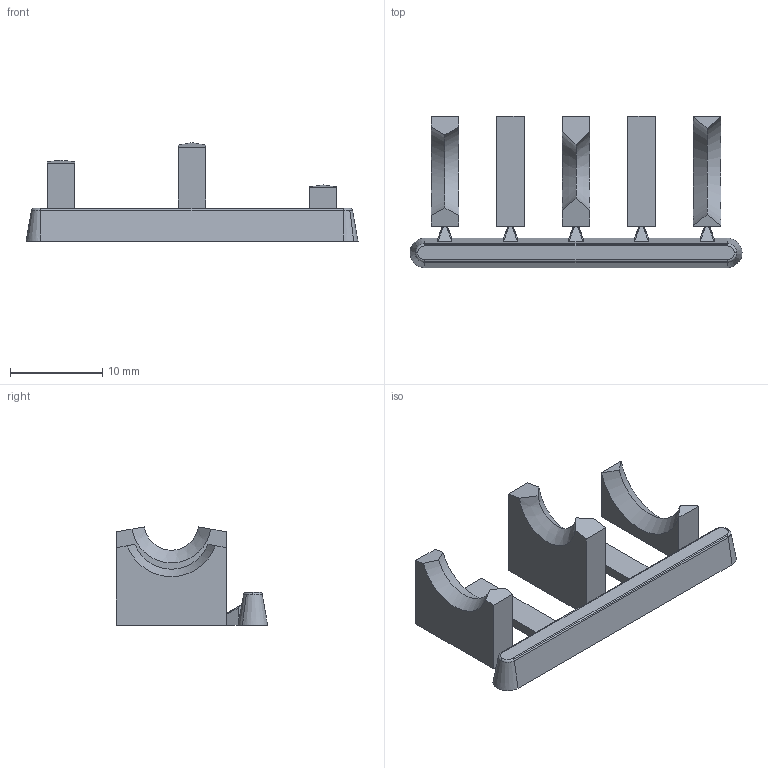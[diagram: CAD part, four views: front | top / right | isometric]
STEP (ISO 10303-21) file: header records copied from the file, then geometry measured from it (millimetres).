
FILE_DESCRIPTION((''),'2;1');
FILE_NAME('cp 25 str insert.stp','2008-12-16T13:41:44',(''),(''),'Mechanical Desktop.R8.0.24.0','Mechanical Desktop.R8.0.24.0',', , ');
FILE_SCHEMA(('CONFIG_CONTROL_DESIGN'));
Length unit declared in the file: inch
Products named in the file (2): CP 25 STR INSERT UNION; RM_SDB
Assembly tree (1 placements, depth 2):
  CP 25 STR INSERT UNION
    RM_SDB
Bounding box: 36.01 x 16.41 x 10.67 mm (x, y, z)
Volume: 1100.4 mm3; surface area: 1506.6 mm2
Topology: 1 solids, 1 shells, 99 faces, 273 edges, 176 vertices
Faces by surface type: plane 61, cylinder 24, cone 10, torus 4
Entity records: 3235 total; most frequent: CARTESIAN_POINT 574, ORIENTED_EDGE 546, DIRECTION 536, EDGE_CURVE 273, VECTOR 188, LINE 188, VERTEX_POINT 176, AXIS2_PLACEMENT_3D 174
